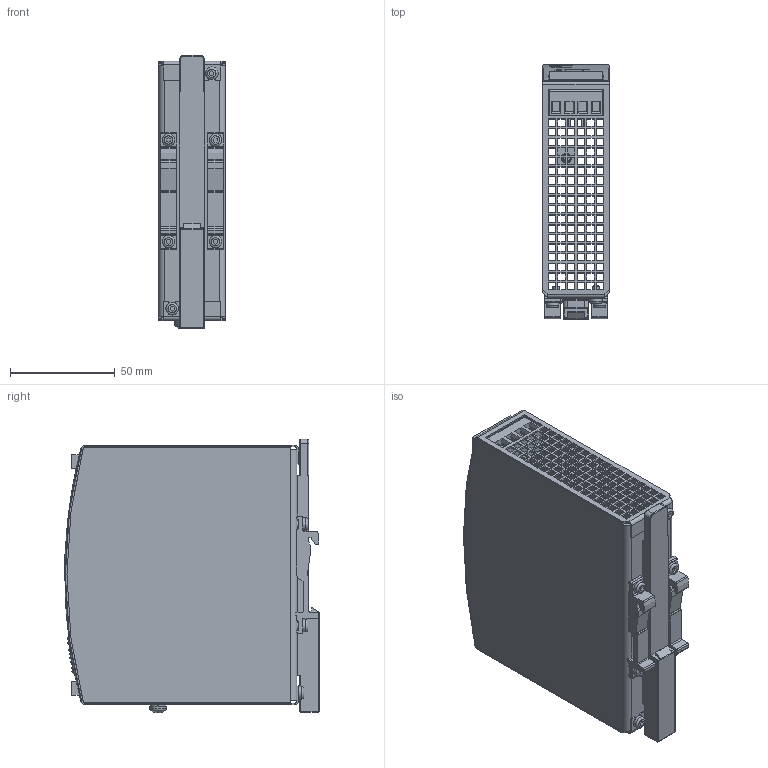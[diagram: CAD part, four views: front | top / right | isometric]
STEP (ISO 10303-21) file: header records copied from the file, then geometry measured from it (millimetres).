
FILE_DESCRIPTION(/* description */ ('HOUSING BODY','CAx-IF Rec.Pracs.---Representation and Presentation of Product Manufacturing Information (PMI)---3.8---2014-02-18'),/* implementation_level */ '2;1');
FILE_NAME(/* name */ 'L:\MKT-GER\Daten von KO\YR20.246B (431.00)\md3_yr20_246-B.stp',/* time_stamp */ '2016-08-26T07:46:27+02:00',/* author */ ('rahns'),/* organization */ (''),/* preprocessor_version */ 'ST-DEVELOPER v16.1',/* originating_system */ 'Autodesk Inventor 2016',/* authorisation */ '');
FILE_SCHEMA (('AP242_MANAGED_MODEL_BASED_3D_ENGINEERING_MIM_LF { 1 0 10303 442 1 1 4 }'));
Products named in the file (15): HOUSING BODY 431.00; HOUSING COVER 431.00; FRONTFOIL 431.00; SLIDER; MKT_Screw3x6; T HOLDER; SCREW 4x8; WASHER 4; LED GN; LED YE; MKT_XT-LP2SW-R6; MKT_RA-10K_4DET; MKT_XT-LP3BK-D2; MKT_XT_LP4BK-D2; 431.00
Assembly tree (24 placements, depth 2):
  431.00
    HOUSING BODY 431.00
    HOUSING COVER 431.00
    FRONTFOIL 431.00
    SLIDER
    MKT_Screw3x6  x6
    T HOLDER  x2
    SCREW 4x8
    WASHER 4
    LED GN  x3
    LED YE  x2
    MKT_XT-LP2SW-R6  x2
    MKT_RA-10K_4DET
    MKT_XT-LP3BK-D2
    MKT_XT_LP4BK-D2
Bounding box: 32 x 121.6 x 130.77 mm (x, y, z)
Volume: 77208 mm3; surface area: 100828.3 mm2
Topology: 24 solids, 24 shells, 4230 faces, 11673 edges, 7768 vertices
Faces by surface type: plane 2764, bspline 1053, cylinder 362, cone 26, torus 16, sphere 9
Full cylindrical faces by diameter (mm): 0.2 x1, 0.3 x8, 2.45 x2, 3 x6, 3.1 x4, 3.621 x1, 4 x1, 4.6 x5, 5 x1, 5.15 x7, 6 x6, 6.3 x1
Entity records: 149577 total; most frequent: CARTESIAN_POINT 51306, ORIENTED_EDGE 22082, DIRECTION 16526, EDGE_CURVE 11041, VERTEX_POINT 7364, LINE 7224, VECTOR 7224, EDGE_LOOP 4763
